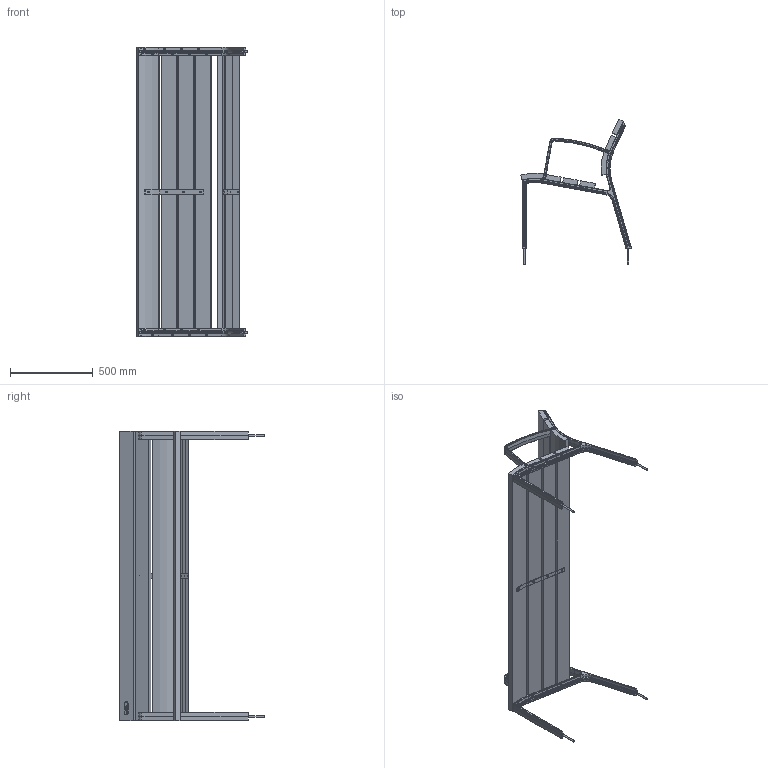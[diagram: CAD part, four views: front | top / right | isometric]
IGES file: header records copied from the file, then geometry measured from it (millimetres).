
Start section: SolidWorks IGES file using analytic representation for surfaces
Global section: file name: C:\SANTACOLE_PDM\I2\Productos de catálogo\outdoor\Mobiliario\Neoromantico pata liviana\6_TECNICO COMERCIAL\3D WEB\NEOROMANTICO LIVIANO 1.75M.IGS; native system: SolidWorks 2013; preprocessor: SolidWorks 2013; author: MarioV; date: 150324.101937; units: millimetre
Bounding box: 669.67 x 875.87 x 1750 mm (x, y, z)
Volume: 41226412.7 mm3; surface area: 3993538.7 mm2
Topology: 51 solids, 51 shells, 3300 faces, 8755 edges, 5529 vertices
Faces by surface type: plane 1416, revolution 1064, bspline 820
